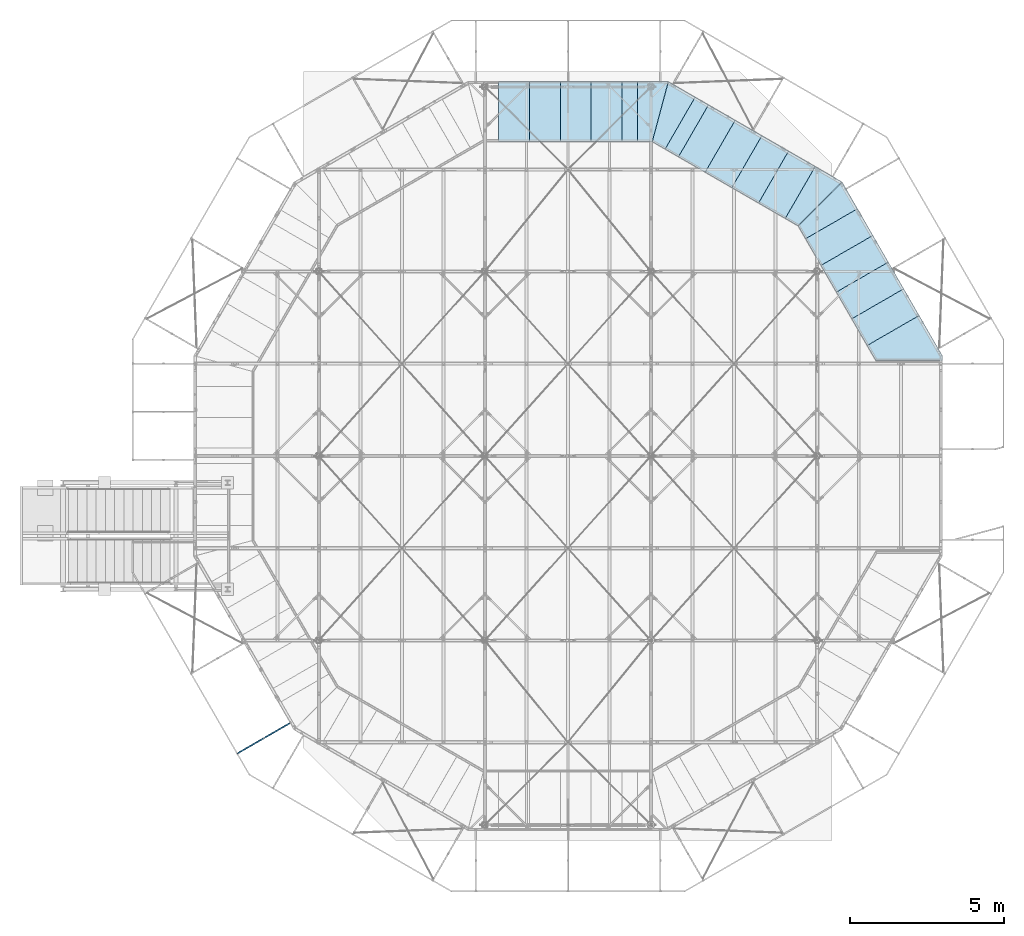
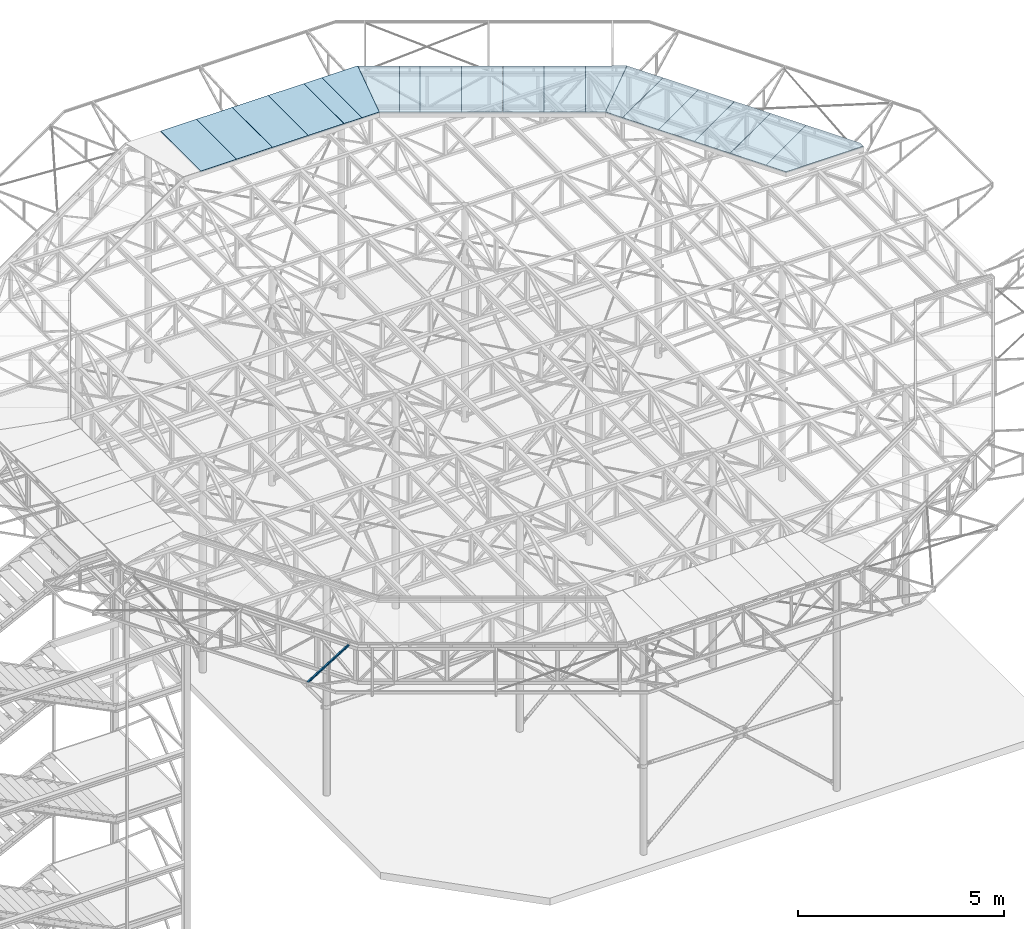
# One storey, part 33 of 132: 38 plates, 1 discrete accessory, 39 elements without a shape of their own.
"""IFC2X3 building model written with IfcOpenShell, lengths in millimetres."""

from ifc_helpers import new_model, si_unit, frame, origin_with_axes, origin_2d_with_axis, place, context, subcontext, project, spatial, polyline, hollow_rectangle, outline, extrude, clip, halfspace, material, type_object, element, aggregate, save


model = new_model("IFC2X3")

# Units and contexts
model_context = context("Model", 3, precision=1e-05, world=origin_with_axes())
body_context = subcontext(model_context, "Body", "Model", "MODEL_VIEW")
ifc_project = project(units=[si_unit("LENGTHUNIT", "METRE", prefix="MILLI"), si_unit("AREAUNIT", "SQUARE_METRE"), si_unit("VOLUMEUNIT", "CUBIC_METRE"), si_unit("MASSUNIT", "GRAM", prefix="KILO"), si_unit("TIMEUNIT", "SECOND"), si_unit("PLANEANGLEUNIT", "RADIAN"), si_unit("SOLIDANGLEUNIT", "STERADIAN"), si_unit("THERMODYNAMICTEMPERATUREUNIT", "DEGREE_CELSIUS"), si_unit("LUMINOUSINTENSITYUNIT", "LUMEN")], contexts=[model_context])

# Site, building, storey
site_placement = place(None, origin_with_axes())
site = spatial("IfcSite", under=ifc_project, at=site_placement, Name="Budowa", CompositionType="ELEMENT")
building_placement = place(site_placement, origin_with_axes())
building = spatial("IfcBuilding", under=site, at=building_placement, Name="Undefined", CompositionType="ELEMENT")
storey_placement = place(building_placement, origin_with_axes())
storey = spatial("IfcBuildingStorey", under=building, at=storey_placement, Name="Undefined", CompositionType="ELEMENT", Elevation=0.0)

# Assembly, plate
assembly_1_placement = place(storey_placement, origin_with_axes())
assembly_1 = element("IfcElementAssembly", 1, at=assembly_1_placement, inside=storey, Name="Steel Assembly", AssemblyPlace="NOTDEFINED", PredefinedType="RIGID_FRAME")
ifc_material = material(Name="STEEL/S235")
plate_type_1 = type_object("IfcPlateType", Name="BL2*1461", PredefinedType="NOTDEFINED")
plate_1_placement = place(assembly_1_placement, frame((21851.4200038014, 15589.4213128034, 14031.0), z_axis=(0.0, 0.0, -1.0), x_axis=(0.86602354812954, 0.500003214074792, 0.0)))
plate_1 = element("IfcPlate", 2, at=plate_1_placement, type_object=plate_type_1, material=ifc_material, Name="BLACHA RYFLOWANA", ObjectType="BL2*1461", context=body_context, shape_type="SweptSolid", body=[
    extrude(outline(polyline([(0.0, 0.0), (1950.9999999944, -2.23008100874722e-09), (1951.0001220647, 1505.99999999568), (1872.65209960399, 1641.70166015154), (-0.0387191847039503, 560.493896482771), (0.0, 0.0)])), frame((0.0, 0.0, -0.999999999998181), z_axis=(0.0, 0.0, 1.0), x_axis=(1.0, 0.0, 0.0)), (0.0, 0.0, 1.0), 2.0),
])
aggregate(assembly_1, [plate_1])

assembly_2_placement = place(storey_placement, origin_with_axes())
assembly_2 = element("IfcElementAssembly", 3, at=assembly_2_placement, inside=storey, Name="Steel Assembly", AssemblyPlace="NOTDEFINED", PredefinedType="RIGID_FRAME")
plate_type_2 = type_object("IfcPlateType", Name="BL2*1000", PredefinedType="NOTDEFINED")
plate_2_placement = place(assembly_2_placement, frame((23539.5117330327, 16567.5608585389, 14031.0), z_axis=(0.0, 0.0, 1.0), x_axis=(-0.500003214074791, 0.86602354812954, 0.0)))
plate_2 = element("IfcPlate", 4, at=plate_2_placement, type_object=plate_type_2, material=ifc_material, Name="BLACHA RYFLOWANA", ObjectType="BL2*1000", context=body_context, shape_type="SweptSolid", body=[
    extrude(outline(polyline([(0.0, 0.0), (999.999999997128, 3.78349795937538e-10), (999.99999999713, 1950.9999999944), (-9.92986315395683e-09, 1950.9999999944), (0.0, 0.0)])), frame((0.0, 0.0, -0.999999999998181), z_axis=(0.0, 0.0, 1.0), x_axis=(1.0, 0.0, 0.0)), (0.0, 0.0, 1.0), 2.0),
])
aggregate(assembly_2, [plate_2])

assembly_3_placement = place(storey_placement, origin_with_axes())
assembly_3 = element("IfcElementAssembly", 5, at=assembly_3_placement, inside=storey, Name="Steel Assembly", AssemblyPlace="NOTDEFINED", PredefinedType="RIGID_FRAME")
plate_3_placement = place(assembly_3_placement, frame((23038.5085125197, 17435.3164537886, 14031.0), z_axis=(0.0, 0.0, 1.0), x_axis=(-0.500003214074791, 0.86602354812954, 0.0)))
plate_3 = element("IfcPlate", 6, at=plate_3_placement, type_object=plate_type_2, material=ifc_material, Name="BLACHA RYFLOWANA", ObjectType="BL2*1000", context=body_context, shape_type="SweptSolid", body=[
    extrude(outline(polyline([(0.0, 0.0), (999.999999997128, 3.78349795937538e-10), (999.99999999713, 1950.9999999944), (-9.92986315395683e-09, 1950.9999999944), (0.0, 0.0)])), frame((0.0, 0.0, -0.999999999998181), z_axis=(0.0, 0.0, 1.0), x_axis=(1.0, 0.0, 0.0)), (0.0, 0.0, 1.0), 2.0),
])
aggregate(assembly_3, [plate_3])

assembly_4_placement = place(storey_placement, origin_with_axes())
assembly_4 = element("IfcElementAssembly", 7, at=assembly_4_placement, inside=storey, Name="Steel Assembly", AssemblyPlace="NOTDEFINED", PredefinedType="RIGID_FRAME")
plate_4_placement = place(assembly_4_placement, frame((22537.5052920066, 18303.0720490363, 14031.0), z_axis=(0.0, 0.0, 1.0), x_axis=(-0.500003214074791, 0.86602354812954, 0.0)))
plate_4 = element("IfcPlate", 8, at=plate_4_placement, type_object=plate_type_2, material=ifc_material, Name="BLACHA RYFLOWANA", ObjectType="BL2*1000", context=body_context, shape_type="SweptSolid", body=[
    extrude(outline(polyline([(0.0, 0.0), (999.999999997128, 3.78349795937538e-10), (999.99999999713, 1950.9999999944), (-9.92986315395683e-09, 1950.9999999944), (0.0, 0.0)])), frame((0.0, 0.0, -0.999999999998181), z_axis=(0.0, 0.0, 1.0), x_axis=(1.0, 0.0, 0.0)), (0.0, 0.0, 1.0), 2.0),
])
aggregate(assembly_4, [plate_4])

assembly_5_placement = place(storey_placement, origin_with_axes())
assembly_5 = element("IfcElementAssembly", 9, at=assembly_5_placement, inside=storey, Name="Steel Assembly", AssemblyPlace="NOTDEFINED", PredefinedType="RIGID_FRAME")
plate_5_placement = place(assembly_5_placement, frame((22036.5020714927, 19170.827644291, 14031.0), z_axis=(0.0, 0.0, 1.0), x_axis=(-0.500003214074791, 0.86602354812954, 0.0)))
plate_5 = element("IfcPlate", 10, at=plate_5_placement, type_object=plate_type_2, material=ifc_material, Name="BLACHA RYFLOWANA", ObjectType="BL2*1000", context=body_context, shape_type="SweptSolid", body=[
    extrude(outline(polyline([(0.0, 0.0), (999.999999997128, 3.78349795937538e-10), (999.99999999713, 1950.9999999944), (-9.92986315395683e-09, 1950.9999999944), (0.0, 0.0)])), frame((0.0, 0.0, -0.999999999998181), z_axis=(0.0, 0.0, 1.0), x_axis=(1.0, 0.0, 0.0)), (0.0, 0.0, 1.0), 2.0),
])
aggregate(assembly_5, [plate_5])

assembly_6_placement = place(storey_placement, origin_with_axes())
assembly_6 = element("IfcElementAssembly", 11, at=assembly_6_placement, inside=storey, Name="Steel Assembly", AssemblyPlace="NOTDEFINED", PredefinedType="RIGID_FRAME")
plate_6_placement = place(assembly_6_placement, frame((20161.1639621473, 21411.8602062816, 14031.0), z_axis=(0.0, 0.0, 1.0), x_axis=(-0.866045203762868, 0.499965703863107, 0.0)))
plate_6 = element("IfcPlate", 12, at=plate_6_placement, type_object=plate_type_2, material=ifc_material, Name="BLACHA RYFLOWANA", ObjectType="BL2*1000", context=body_context, shape_type="SweptSolid", body=[
    extrude(outline(polyline([(0.0, 0.0), (999.999999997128, 3.78349795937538e-10), (999.99999999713, 1950.9999999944), (-9.92986315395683e-09, 1950.9999999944), (0.0, 0.0)])), frame((0.0, 0.0, -0.999999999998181), z_axis=(0.0, 0.0, 1.0), x_axis=(1.0, 0.0, 0.0)), (0.0, 0.0, 1.0), 2.0),
])
aggregate(assembly_6, [plate_6])

assembly_7_placement = place(storey_placement, origin_with_axes())
assembly_7 = element("IfcElementAssembly", 13, at=assembly_7_placement, inside=storey, Name="Steel Assembly", AssemblyPlace="NOTDEFINED", PredefinedType="RIGID_FRAME")
plate_7_placement = place(assembly_7_placement, frame((19293.3866679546, 21912.8258415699, 14031.0), z_axis=(0.0, 0.0, 1.0), x_axis=(-0.866045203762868, 0.499965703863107, 0.0)))
plate_7 = element("IfcPlate", 14, at=plate_7_placement, type_object=plate_type_2, material=ifc_material, Name="BLACHA RYFLOWANA", ObjectType="BL2*1000", context=body_context, shape_type="SweptSolid", body=[
    extrude(outline(polyline([(0.0, 0.0), (999.999999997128, 3.78349795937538e-10), (999.99999999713, 1950.9999999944), (-9.92986315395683e-09, 1950.9999999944), (0.0, 0.0)])), frame((0.0, 0.0, -0.999999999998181), z_axis=(0.0, 0.0, 1.0), x_axis=(1.0, 0.0, 0.0)), (0.0, 0.0, 1.0), 2.0),
])
aggregate(assembly_7, [plate_7])

assembly_8_placement = place(storey_placement, origin_with_axes())
assembly_8 = element("IfcElementAssembly", 15, at=assembly_8_placement, inside=storey, Name="Steel Assembly", AssemblyPlace="NOTDEFINED", PredefinedType="RIGID_FRAME")
plate_8_placement = place(assembly_8_placement, frame((18425.6093737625, 22413.7914768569, 14031.0), z_axis=(0.0, 0.0, 1.0), x_axis=(-0.866045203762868, 0.499965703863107, 0.0)))
plate_8 = element("IfcPlate", 16, at=plate_8_placement, type_object=plate_type_2, material=ifc_material, Name="BLACHA RYFLOWANA", ObjectType="BL2*1000", context=body_context, shape_type="SweptSolid", body=[
    extrude(outline(polyline([(0.0, 0.0), (999.999999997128, 3.78349795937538e-10), (999.99999999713, 1950.9999999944), (-9.92986315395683e-09, 1950.9999999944), (0.0, 0.0)])), frame((0.0, 0.0, -0.999999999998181), z_axis=(0.0, 0.0, 1.0), x_axis=(1.0, 0.0, 0.0)), (0.0, 0.0, 1.0), 2.0),
])
aggregate(assembly_8, [plate_8])

assembly_9_placement = place(storey_placement, origin_with_axes())
assembly_9 = element("IfcElementAssembly", 17, at=assembly_9_placement, inside=storey, Name="Steel Assembly", AssemblyPlace="NOTDEFINED", PredefinedType="RIGID_FRAME")
plate_9_placement = place(assembly_9_placement, frame((17557.8320795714, 22914.7571121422, 14031.0), z_axis=(0.0, 0.0, 1.0), x_axis=(-0.866045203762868, 0.499965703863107, 0.0)))
plate_9 = element("IfcPlate", 18, at=plate_9_placement, type_object=plate_type_2, material=ifc_material, Name="BLACHA RYFLOWANA", ObjectType="BL2*1000", context=body_context, shape_type="SweptSolid", body=[
    extrude(outline(polyline([(0.0, 0.0), (999.999999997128, 3.78349795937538e-10), (999.99999999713, 1950.9999999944), (-9.92986315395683e-09, 1950.9999999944), (0.0, 0.0)])), frame((0.0, 0.0, -0.999999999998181), z_axis=(0.0, 0.0, 1.0), x_axis=(1.0, 0.0, 0.0)), (0.0, 0.0, 1.0), 2.0),
])
aggregate(assembly_9, [plate_9])

assembly_10_placement = place(storey_placement, origin_with_axes())
assembly_10 = element("IfcElementAssembly", 19, at=assembly_10_placement, inside=storey, Name="Steel Assembly", AssemblyPlace="NOTDEFINED", PredefinedType="RIGID_FRAME")
plate_10_placement = place(assembly_10_placement, frame((12877.0956570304, 24169.0005127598, 14031.0000000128), z_axis=(0.0, 0.0, -1.0), x_axis=(1.0, 0.0, 0.0)))
plate_10 = element("IfcPlate", 20, at=plate_10_placement, type_object=plate_type_2, material=ifc_material, Name="BLACHA RYFLOWANA", ObjectType="BL2*1000", context=body_context, shape_type="SweptSolid", body=[
    extrude(outline(polyline([(0.0, 0.0), (999.999999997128, 3.78349795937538e-10), (999.99999999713, 1950.9999999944), (-9.92986315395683e-09, 1950.9999999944), (0.0, 0.0)])), frame((0.0, 0.0, -0.999999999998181), z_axis=(0.0, 0.0, 1.0), x_axis=(1.0, 0.0, 0.0)), (0.0, 0.0, 1.0), 2.0),
])
aggregate(assembly_10, [plate_10])

assembly_11_placement = place(storey_placement, origin_with_axes())
assembly_11 = element("IfcElementAssembly", 21, at=assembly_11_placement, inside=storey, Name="Steel Assembly", AssemblyPlace="NOTDEFINED", PredefinedType="RIGID_FRAME")
plate_11_placement = place(assembly_11_placement, frame((11875.095657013, 24169.0005127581, 14031.0000000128), z_axis=(0.0, 0.0, -1.0), x_axis=(1.0, 0.0, 0.0)))
plate_11 = element("IfcPlate", 22, at=plate_11_placement, type_object=plate_type_2, material=ifc_material, Name="BLACHA RYFLOWANA", ObjectType="BL2*1000", context=body_context, shape_type="SweptSolid", body=[
    extrude(outline(polyline([(0.0, 0.0), (999.999999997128, 3.78349795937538e-10), (999.99999999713, 1950.9999999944), (-9.92986315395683e-09, 1950.9999999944), (0.0, 0.0)])), frame((0.0, 0.0, -0.999999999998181), z_axis=(0.0, 0.0, 1.0), x_axis=(1.0, 0.0, 0.0)), (0.0, 0.0, 1.0), 2.0),
])
aggregate(assembly_11, [plate_11])

assembly_12_placement = place(storey_placement, origin_with_axes())
assembly_12 = element("IfcElementAssembly", 23, at=assembly_12_placement, inside=storey, Name="Steel Assembly", AssemblyPlace="NOTDEFINED", PredefinedType="RIGID_FRAME")
plate_12_placement = place(assembly_12_placement, frame((10873.0956569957, 24169.0005127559, 14031.0000000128), z_axis=(0.0, 0.0, -1.0), x_axis=(1.0, 0.0, 0.0)))
plate_12 = element("IfcPlate", 24, at=plate_12_placement, type_object=plate_type_2, material=ifc_material, Name="BLACHA RYFLOWANA", ObjectType="BL2*1000", context=body_context, shape_type="SweptSolid", body=[
    extrude(outline(polyline([(0.0, 0.0), (999.999999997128, 3.78349795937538e-10), (999.99999999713, 1950.9999999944), (-9.92986315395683e-09, 1950.9999999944), (0.0, 0.0)])), frame((0.0, 0.0, -0.999999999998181), z_axis=(0.0, 0.0, 1.0), x_axis=(1.0, 0.0, 0.0)), (0.0, 0.0, 1.0), 2.0),
])
aggregate(assembly_12, [plate_12])

assembly_13_placement = place(storey_placement, origin_with_axes())
assembly_13 = element("IfcElementAssembly", 25, at=assembly_13_placement, inside=storey, Name="Steel Assembly", AssemblyPlace="NOTDEFINED", PredefinedType="RIGID_FRAME")
plate_13_placement = place(assembly_13_placement, frame((9871.09565697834, 24169.0005127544, 14031.0000000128), z_axis=(0.0, 0.0, -1.0), x_axis=(1.0, 0.0, 0.0)))
plate_13 = element("IfcPlate", 26, at=plate_13_placement, type_object=plate_type_2, material=ifc_material, Name="BLACHA RYFLOWANA", ObjectType="BL2*1000", context=body_context, shape_type="SweptSolid", body=[
    extrude(outline(polyline([(0.0, 0.0), (999.999999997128, 3.78349795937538e-10), (999.99999999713, 1950.9999999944), (-9.92986315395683e-09, 1950.9999999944), (0.0, 0.0)])), frame((0.0, 0.0, -0.999999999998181), z_axis=(0.0, 0.0, 1.0), x_axis=(1.0, 0.0, 0.0)), (0.0, 0.0, 1.0), 2.0),
])
aggregate(assembly_13, [plate_13])

assembly_14_placement = place(storey_placement, origin_with_axes())
assembly_14 = element("IfcElementAssembly", 27, at=assembly_14_placement, inside=storey, Name="Steel Assembly", AssemblyPlace="NOTDEFINED", PredefinedType="RIGID_FRAME")
plate_type_3 = type_object("IfcPlateType", Name="BL2*1002", PredefinedType="NOTDEFINED")
plate_14_placement = place(assembly_14_placement, frame((19846.7387029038, 19062.5593450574, 14031.0), z_axis=(0.0, 0.0, -1.0), x_axis=(-0.500336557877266, 0.865831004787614, 0.0)))
plate_14 = element("IfcPlate", 28, at=plate_14_placement, type_object=plate_type_3, material=ifc_material, Name="BLACHA RYFLOWANA", ObjectType="BL2*1002", context=body_context, shape_type="SweptSolid", body=[
    extrude(outline(polyline([(0.0, 0.0), (481.607696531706, 5.82076609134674e-10), (1002.48809814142, 1950.90051268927), (-3.37786332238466e-08, 1950.90051268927), (0.0, 0.0)])), frame((0.0, 0.0, -0.999999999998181), z_axis=(0.0, 0.0, 1.0), x_axis=(1.0, 0.0, 0.0)), (0.0, 0.0, 1.0), 2.0),
])
aggregate(assembly_14, [plate_14])

assembly_15_placement = place(storey_placement, origin_with_axes())
assembly_15 = element("IfcElementAssembly", 29, at=assembly_15_placement, inside=storey, Name="Steel Assembly", AssemblyPlace="NOTDEFINED", PredefinedType="RIGID_FRAME")
plate_15_placement = place(assembly_15_placement, frame((15280.5817170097, 21976.7536120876, 14031.0), z_axis=(0.0, 0.0, -1.0), x_axis=(-0.866045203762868, 0.499965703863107, 0.0)))
plate_15 = element("IfcPlate", 30, at=plate_15_placement, type_object=plate_type_3, material=ifc_material, Name="BLACHA RYFLOWANA", ObjectType="BL2*1002", context=body_context, shape_type="SweptSolid", body=[
    extrude(outline(polyline([(0.0, 0.0), (481.607696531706, 5.82076609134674e-10), (1002.48809814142, 1950.90051268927), (-3.37786332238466e-08, 1950.90051268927), (0.0, 0.0)])), frame((0.0, 0.0, -0.999999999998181), z_axis=(0.0, 0.0, 1.0), x_axis=(1.0, 0.0, 0.0)), (0.0, 0.0, 1.0), 2.0),
])
aggregate(assembly_15, [plate_15])

assembly_16_placement = place(storey_placement, origin_with_axes())
assembly_16 = element("IfcElementAssembly", 31, at=assembly_16_placement, inside=storey, Name="Steel Assembly", AssemblyPlace="NOTDEFINED", PredefinedType="RIGID_FRAME")
plate_16_placement = place(assembly_16_placement, frame((19188.0119897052, 19721.0040067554, 14031.0), z_axis=(0.0, 0.0, 1.0), x_axis=(0.86604520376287, -0.499965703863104, 0.0)))
plate_16 = element("IfcPlate", 32, at=plate_16_placement, type_object=plate_type_3, material=ifc_material, Name="BLACHA RYFLOWANA", ObjectType="BL2*1002", context=body_context, shape_type="SweptSolid", body=[
    extrude(outline(polyline([(0.0, 0.0), (481.607696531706, 5.82076609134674e-10), (1002.48809814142, 1950.90051268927), (-3.37786332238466e-08, 1950.90051268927), (0.0, 0.0)])), frame((0.0, 0.0, -0.999999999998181), z_axis=(0.0, 0.0, 1.0), x_axis=(1.0, 0.0, 0.0)), (0.0, 0.0, 1.0), 2.0),
])
aggregate(assembly_16, [plate_16])

assembly_17_placement = place(storey_placement, origin_with_axes())
assembly_17 = element("IfcElementAssembly", 33, at=assembly_17_placement, inside=storey, Name="Steel Assembly", AssemblyPlace="NOTDEFINED", PredefinedType="RIGID_FRAME")
plate_17_placement = place(assembly_17_placement, frame((14380.9043428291, 22218.0005127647, 14031.0000000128), z_axis=(0.0, 0.0, 1.0), x_axis=(1.0, 0.0, 0.0)))
plate_17 = element("IfcPlate", 34, at=plate_17_placement, type_object=plate_type_3, material=ifc_material, Name="BLACHA RYFLOWANA", ObjectType="BL2*1002", context=body_context, shape_type="SweptSolid", body=[
    extrude(outline(polyline([(0.0, 0.0), (481.607696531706, 5.82076609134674e-10), (1002.48809814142, 1950.90051268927), (-3.37786332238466e-08, 1950.90051268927), (0.0, 0.0)])), frame((0.0, 0.0, -0.999999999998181), z_axis=(0.0, 0.0, 1.0), x_axis=(1.0, 0.0, 0.0)), (0.0, 0.0, 1.0), 2.0),
])
aggregate(assembly_17, [plate_17])

assembly_18_placement = place(storey_placement, origin_with_axes())
assembly_18 = element("IfcElementAssembly", 35, at=assembly_18_placement, inside=storey, Name="Steel Assembly", AssemblyPlace="NOTDEFINED", PredefinedType="RIGID_FRAME")
plate_type_4 = type_object("IfcPlateType", Name="BL2*500", PredefinedType="NOTDEFINED")
plate_18_placement = place(assembly_18_placement, frame((16690.0547853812, 23415.7227474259, 14031.0), z_axis=(0.0, 0.0, 1.0), x_axis=(-0.866045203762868, 0.499965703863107, 0.0)))
plate_18 = element("IfcPlate", 36, at=plate_18_placement, type_object=plate_type_4, material=ifc_material, Name="BLACHA RYFLOWANA", ObjectType="BL2*500", context=body_context, shape_type="SweptSolid", body=[
    extrude(outline(polyline([(0.0, 0.0), (499.999999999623, 8.51287040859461e-10), (499.999999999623, 1950.99999999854), (-9.92986315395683e-09, 1950.9999999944), (0.0, 0.0)])), frame((0.0, 0.0, -0.999999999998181), z_axis=(0.0, 0.0, 1.0), x_axis=(1.0, 0.0, 0.0)), (0.0, 0.0, 1.0), 2.0),
])
aggregate(assembly_18, [plate_18])

assembly_19_placement = place(storey_placement, origin_with_axes())
assembly_19 = element("IfcElementAssembly", 37, at=assembly_19_placement, inside=storey, Name="Steel Assembly", AssemblyPlace="NOTDEFINED", PredefinedType="RIGID_FRAME")
plate_19_placement = place(assembly_19_placement, frame((13879.0956570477, 24169.000512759, 14031.0000000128), z_axis=(0.0, 0.0, -1.0), x_axis=(1.0, 0.0, 0.0)))
plate_19 = element("IfcPlate", 38, at=plate_19_placement, type_object=plate_type_4, material=ifc_material, Name="BLACHA RYFLOWANA", ObjectType="BL2*500", context=body_context, shape_type="SweptSolid", body=[
    extrude(outline(polyline([(0.0, 0.0), (499.999999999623, 8.51287040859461e-10), (499.999999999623, 1950.99999999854), (-9.92986315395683e-09, 1950.9999999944), (0.0, 0.0)])), frame((0.0, 0.0, -0.999999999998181), z_axis=(0.0, 0.0, 1.0), x_axis=(1.0, 0.0, 0.0)), (0.0, 0.0, 1.0), 2.0),
])
aggregate(assembly_19, [plate_19])

assembly_20_placement = place(storey_placement, origin_with_axes())
assembly_20 = element("IfcElementAssembly", 39, at=assembly_20_placement, inside=storey, Name="Steel Assembly", AssemblyPlace="NOTDEFINED", PredefinedType="RIGID_FRAME")
plate_type_5 = type_object("IfcPlateType", Name="BL40*1461", PredefinedType="NOTDEFINED")
plate_20_placement = place(assembly_20_placement, frame((21851.4200037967, 15589.4213128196, 14010.0), z_axis=(0.0, 0.0, -1.0), x_axis=(0.86602354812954, 0.500003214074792, 0.0)))
plate_20 = element("IfcPlate", 40, at=plate_20_placement, type_object=plate_type_5, material=ifc_material, Name="KRATA", ObjectType="BL40*1461", context=body_context, shape_type="SweptSolid", body=[
    extrude(outline(polyline([(0.0, 0.0), (1950.9999999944, -2.23008100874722e-09), (1951.0001220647, 1505.99999999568), (1872.65209960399, 1641.70166015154), (-0.0387191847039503, 560.493896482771), (0.0, 0.0)])), frame((0.0, 0.0, -20.0), z_axis=(0.0, 0.0, 1.0), x_axis=(1.0, 0.0, 0.0)), (0.0, 0.0, 1.0), 40.0),
])
aggregate(assembly_20, [plate_20])

assembly_21_placement = place(storey_placement, origin_with_axes())
assembly_21 = element("IfcElementAssembly", 41, at=assembly_21_placement, inside=storey, Name="Steel Assembly", AssemblyPlace="NOTDEFINED", PredefinedType="RIGID_FRAME")
plate_type_6 = type_object("IfcPlateType", Name="BL40*1000", PredefinedType="NOTDEFINED")
plate_21_placement = place(assembly_21_placement, frame((23539.5117330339, 16567.5608585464, 14010.0), z_axis=(0.0, 0.0, 1.0), x_axis=(-0.500003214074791, 0.86602354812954, 0.0)))
plate_21 = element("IfcPlate", 42, at=plate_21_placement, type_object=plate_type_6, material=ifc_material, Name="KRATA", ObjectType="BL40*1000", context=body_context, shape_type="SweptSolid", body=[
    extrude(outline(polyline([(0.0, 0.0), (999.999999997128, 3.78349795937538e-10), (999.99999999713, 1950.9999999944), (-9.92986315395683e-09, 1950.9999999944), (0.0, 0.0)])), frame((0.0, 0.0, -20.0), z_axis=(0.0, 0.0, 1.0), x_axis=(1.0, 0.0, 0.0)), (0.0, 0.0, 1.0), 40.0),
])
aggregate(assembly_21, [plate_21])

assembly_22_placement = place(storey_placement, origin_with_axes())
assembly_22 = element("IfcElementAssembly", 43, at=assembly_22_placement, inside=storey, Name="Steel Assembly", AssemblyPlace="NOTDEFINED", PredefinedType="RIGID_FRAME")
plate_22_placement = place(assembly_22_placement, frame((23038.508512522, 17435.3164537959, 14010.0), z_axis=(0.0, 0.0, 1.0), x_axis=(-0.500003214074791, 0.86602354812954, 0.0)))
plate_22 = element("IfcPlate", 44, at=plate_22_placement, type_object=plate_type_6, material=ifc_material, Name="KRATA", ObjectType="BL40*1000", context=body_context, shape_type="SweptSolid", body=[
    extrude(outline(polyline([(0.0, 0.0), (999.999999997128, 3.78349795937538e-10), (999.99999999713, 1950.9999999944), (-9.92986315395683e-09, 1950.9999999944), (0.0, 0.0)])), frame((0.0, 0.0, -20.0), z_axis=(0.0, 0.0, 1.0), x_axis=(1.0, 0.0, 0.0)), (0.0, 0.0, 1.0), 40.0),
])
aggregate(assembly_22, [plate_22])

assembly_23_placement = place(storey_placement, origin_with_axes())
assembly_23 = element("IfcElementAssembly", 45, at=assembly_23_placement, inside=storey, Name="Steel Assembly", AssemblyPlace="NOTDEFINED", PredefinedType="RIGID_FRAME")
plate_23_placement = place(assembly_23_placement, frame((22537.5052920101, 18303.0720490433, 14010.0), z_axis=(0.0, 0.0, 1.0), x_axis=(-0.500003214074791, 0.86602354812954, 0.0)))
plate_23 = element("IfcPlate", 46, at=plate_23_placement, type_object=plate_type_6, material=ifc_material, Name="KRATA", ObjectType="BL40*1000", context=body_context, shape_type="SweptSolid", body=[
    extrude(outline(polyline([(0.0, 0.0), (999.999999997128, 3.78349795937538e-10), (999.99999999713, 1950.9999999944), (-9.92986315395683e-09, 1950.9999999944), (0.0, 0.0)])), frame((0.0, 0.0, -20.0), z_axis=(0.0, 0.0, 1.0), x_axis=(1.0, 0.0, 0.0)), (0.0, 0.0, 1.0), 40.0),
])
aggregate(assembly_23, [plate_23])

assembly_24_placement = place(storey_placement, origin_with_axes())
assembly_24 = element("IfcElementAssembly", 47, at=assembly_24_placement, inside=storey, Name="Steel Assembly", AssemblyPlace="NOTDEFINED", PredefinedType="RIGID_FRAME")
plate_24_placement = place(assembly_24_placement, frame((22036.5020714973, 19170.8276442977, 14010.0), z_axis=(0.0, 0.0, 1.0), x_axis=(-0.500003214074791, 0.86602354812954, 0.0)))
plate_24 = element("IfcPlate", 48, at=plate_24_placement, type_object=plate_type_6, material=ifc_material, Name="KRATA", ObjectType="BL40*1000", context=body_context, shape_type="SweptSolid", body=[
    extrude(outline(polyline([(0.0, 0.0), (999.999999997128, 3.78349795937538e-10), (999.99999999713, 1950.9999999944), (-9.92986315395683e-09, 1950.9999999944), (0.0, 0.0)])), frame((0.0, 0.0, -20.0), z_axis=(0.0, 0.0, 1.0), x_axis=(1.0, 0.0, 0.0)), (0.0, 0.0, 1.0), 40.0),
])
aggregate(assembly_24, [plate_24])

assembly_25_placement = place(storey_placement, origin_with_axes())
assembly_25 = element("IfcElementAssembly", 49, at=assembly_25_placement, inside=storey, Name="Steel Assembly", AssemblyPlace="NOTDEFINED", PredefinedType="RIGID_FRAME")
plate_25_placement = place(assembly_25_placement, frame((20161.1639621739, 21411.860206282, 14010.0), z_axis=(0.0, 0.0, 1.0), x_axis=(-0.866045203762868, 0.499965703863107, 0.0)))
plate_25 = element("IfcPlate", 50, at=plate_25_placement, type_object=plate_type_6, material=ifc_material, Name="KRATA", ObjectType="BL40*1000", context=body_context, shape_type="SweptSolid", body=[
    extrude(outline(polyline([(0.0, 0.0), (999.999999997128, 3.78349795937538e-10), (999.99999999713, 1950.9999999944), (-9.92986315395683e-09, 1950.9999999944), (0.0, 0.0)])), frame((0.0, 0.0, -20.0), z_axis=(0.0, 0.0, 1.0), x_axis=(1.0, 0.0, 0.0)), (0.0, 0.0, 1.0), 40.0),
])
aggregate(assembly_25, [plate_25])

assembly_26_placement = place(storey_placement, origin_with_axes())
assembly_26 = element("IfcElementAssembly", 51, at=assembly_26_placement, inside=storey, Name="Steel Assembly", AssemblyPlace="NOTDEFINED", PredefinedType="RIGID_FRAME")
plate_26_placement = place(assembly_26_placement, frame((19293.3866679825, 21912.8258415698, 14010.0), z_axis=(0.0, 0.0, 1.0), x_axis=(-0.866045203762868, 0.499965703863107, 0.0)))
plate_26 = element("IfcPlate", 52, at=plate_26_placement, type_object=plate_type_6, material=ifc_material, Name="KRATA", ObjectType="BL40*1000", context=body_context, shape_type="SweptSolid", body=[
    extrude(outline(polyline([(0.0, 0.0), (999.999999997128, 3.78349795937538e-10), (999.99999999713, 1950.9999999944), (-9.92986315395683e-09, 1950.9999999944), (0.0, 0.0)])), frame((0.0, 0.0, -20.0), z_axis=(0.0, 0.0, 1.0), x_axis=(1.0, 0.0, 0.0)), (0.0, 0.0, 1.0), 40.0),
])
aggregate(assembly_26, [plate_26])

assembly_27_placement = place(storey_placement, origin_with_axes())
assembly_27 = element("IfcElementAssembly", 53, at=assembly_27_placement, inside=storey, Name="Steel Assembly", AssemblyPlace="NOTDEFINED", PredefinedType="RIGID_FRAME")
plate_27_placement = place(assembly_27_placement, frame((18425.6093737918, 22413.7914768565, 14010.0), z_axis=(0.0, 0.0, 1.0), x_axis=(-0.866045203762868, 0.499965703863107, 0.0)))
plate_27 = element("IfcPlate", 54, at=plate_27_placement, type_object=plate_type_6, material=ifc_material, Name="KRATA", ObjectType="BL40*1000", context=body_context, shape_type="SweptSolid", body=[
    extrude(outline(polyline([(0.0, 0.0), (999.999999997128, 3.78349795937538e-10), (999.99999999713, 1950.9999999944), (-9.92986315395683e-09, 1950.9999999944), (0.0, 0.0)])), frame((0.0, 0.0, -20.0), z_axis=(0.0, 0.0, 1.0), x_axis=(1.0, 0.0, 0.0)), (0.0, 0.0, 1.0), 40.0),
])
aggregate(assembly_27, [plate_27])

assembly_28_placement = place(storey_placement, origin_with_axes())
assembly_28 = element("IfcElementAssembly", 55, at=assembly_28_placement, inside=storey, Name="Steel Assembly", AssemblyPlace="NOTDEFINED", PredefinedType="RIGID_FRAME")
plate_28_placement = place(assembly_28_placement, frame((17557.8320796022, 22914.7571121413, 14010.0), z_axis=(0.0, 0.0, 1.0), x_axis=(-0.866045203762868, 0.499965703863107, 0.0)))
plate_28 = element("IfcPlate", 56, at=plate_28_placement, type_object=plate_type_6, material=ifc_material, Name="KRATA", ObjectType="BL40*1000", context=body_context, shape_type="SweptSolid", body=[
    extrude(outline(polyline([(0.0, 0.0), (999.999999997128, 3.78349795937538e-10), (999.99999999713, 1950.9999999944), (-9.92986315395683e-09, 1950.9999999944), (0.0, 0.0)])), frame((0.0, 0.0, -20.0), z_axis=(0.0, 0.0, 1.0), x_axis=(1.0, 0.0, 0.0)), (0.0, 0.0, 1.0), 40.0),
])
aggregate(assembly_28, [plate_28])

assembly_29_placement = place(storey_placement, origin_with_axes())
assembly_29 = element("IfcElementAssembly", 57, at=assembly_29_placement, inside=storey, Name="Steel Assembly", AssemblyPlace="NOTDEFINED", PredefinedType="RIGID_FRAME")
plate_29_placement = place(assembly_29_placement, frame((12877.095657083, 24169.0005127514, 14010.0), z_axis=(0.0, 0.0, -1.0), x_axis=(1.0, 0.0, 0.0)))
plate_29 = element("IfcPlate", 58, at=plate_29_placement, type_object=plate_type_6, material=ifc_material, Name="KRATA", ObjectType="BL40*1000", context=body_context, shape_type="SweptSolid", body=[
    extrude(outline(polyline([(0.0, 0.0), (999.999999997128, 3.78349795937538e-10), (999.99999999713, 1950.9999999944), (-9.92986315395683e-09, 1950.9999999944), (0.0, 0.0)])), frame((0.0, 0.0, -20.0), z_axis=(0.0, 0.0, 1.0), x_axis=(1.0, 0.0, 0.0)), (0.0, 0.0, 1.0), 40.0),
])
aggregate(assembly_29, [plate_29])

assembly_30_placement = place(storey_placement, origin_with_axes())
assembly_30 = element("IfcElementAssembly", 59, at=assembly_30_placement, inside=storey, Name="Steel Assembly", AssemblyPlace="NOTDEFINED", PredefinedType="RIGID_FRAME")
plate_30_placement = place(assembly_30_placement, frame((11875.095657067, 24169.0005127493, 14010.0), z_axis=(0.0, 0.0, -1.0), x_axis=(1.0, 0.0, 0.0)))
plate_30 = element("IfcPlate", 60, at=plate_30_placement, type_object=plate_type_6, material=ifc_material, Name="KRATA", ObjectType="BL40*1000", context=body_context, shape_type="SweptSolid", body=[
    extrude(outline(polyline([(0.0, 0.0), (999.999999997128, 3.78349795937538e-10), (999.99999999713, 1950.9999999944), (-9.92986315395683e-09, 1950.9999999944), (0.0, 0.0)])), frame((0.0, 0.0, -20.0), z_axis=(0.0, 0.0, 1.0), x_axis=(1.0, 0.0, 0.0)), (0.0, 0.0, 1.0), 40.0),
])
aggregate(assembly_30, [plate_30])

assembly_31_placement = place(storey_placement, origin_with_axes())
assembly_31 = element("IfcElementAssembly", 61, at=assembly_31_placement, inside=storey, Name="Steel Assembly", AssemblyPlace="NOTDEFINED", PredefinedType="RIGID_FRAME")
plate_31_placement = place(assembly_31_placement, frame((10873.0956570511, 24169.0005127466, 14010.0), z_axis=(0.0, 0.0, -1.0), x_axis=(1.0, 0.0, 0.0)))
plate_31 = element("IfcPlate", 62, at=plate_31_placement, type_object=plate_type_6, material=ifc_material, Name="KRATA", ObjectType="BL40*1000", context=body_context, shape_type="SweptSolid", body=[
    extrude(outline(polyline([(0.0, 0.0), (999.999999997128, 3.78349795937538e-10), (999.99999999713, 1950.9999999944), (-9.92986315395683e-09, 1950.9999999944), (0.0, 0.0)])), frame((0.0, 0.0, -20.0), z_axis=(0.0, 0.0, 1.0), x_axis=(1.0, 0.0, 0.0)), (0.0, 0.0, 1.0), 40.0),
])
aggregate(assembly_31, [plate_31])

assembly_32_placement = place(storey_placement, origin_with_axes())
assembly_32 = element("IfcElementAssembly", 63, at=assembly_32_placement, inside=storey, Name="Steel Assembly", AssemblyPlace="NOTDEFINED", PredefinedType="RIGID_FRAME")
plate_32_placement = place(assembly_32_placement, frame((9871.09565703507, 24169.0005127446, 14010.0), z_axis=(0.0, 0.0, -1.0), x_axis=(1.0, 0.0, 0.0)))
plate_32 = element("IfcPlate", 64, at=plate_32_placement, type_object=plate_type_6, material=ifc_material, Name="KRATA", ObjectType="BL40*1000", context=body_context, shape_type="SweptSolid", body=[
    extrude(outline(polyline([(0.0, 0.0), (999.999999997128, 3.78349795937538e-10), (999.99999999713, 1950.9999999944), (-9.92986315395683e-09, 1950.9999999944), (0.0, 0.0)])), frame((0.0, 0.0, -20.0), z_axis=(0.0, 0.0, 1.0), x_axis=(1.0, 0.0, 0.0)), (0.0, 0.0, 1.0), 40.0),
])
aggregate(assembly_32, [plate_32])

assembly_33_placement = place(storey_placement, origin_with_axes())
assembly_33 = element("IfcElementAssembly", 65, at=assembly_33_placement, inside=storey, Name="Steel Assembly", AssemblyPlace="NOTDEFINED", PredefinedType="RIGID_FRAME")
plate_type_7 = type_object("IfcPlateType", Name="BL40*1002", PredefinedType="NOTDEFINED")
plate_33_placement = place(assembly_33_placement, frame((19846.7387029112, 19062.5593450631, 14010.0), z_axis=(0.0, 0.0, -1.0), x_axis=(-0.500336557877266, 0.865831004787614, 0.0)))
plate_33 = element("IfcPlate", 66, at=plate_33_placement, type_object=plate_type_7, material=ifc_material, Name="KRATA", ObjectType="BL40*1002", context=body_context, shape_type="SweptSolid", body=[
    extrude(outline(polyline([(0.0, 0.0), (481.607696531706, 5.82076609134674e-10), (1002.48809814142, 1950.90051268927), (-3.37786332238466e-08, 1950.90051268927), (0.0, 0.0)])), frame((0.0, 0.0, -20.0), z_axis=(0.0, 0.0, 1.0), x_axis=(1.0, 0.0, 0.0)), (0.0, 0.0, 1.0), 40.0),
])
aggregate(assembly_33, [plate_33])

assembly_34_placement = place(storey_placement, origin_with_axes())
assembly_34 = element("IfcElementAssembly", 67, at=assembly_34_placement, inside=storey, Name="Steel Assembly", AssemblyPlace="NOTDEFINED", PredefinedType="RIGID_FRAME")
plate_34_placement = place(assembly_34_placement, frame((15280.5817170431, 21976.7536120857, 14010.0), z_axis=(0.0, 0.0, -1.0), x_axis=(-0.866045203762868, 0.499965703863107, 0.0)))
plate_34 = element("IfcPlate", 68, at=plate_34_placement, type_object=plate_type_7, material=ifc_material, Name="KRATA", ObjectType="BL40*1002", context=body_context, shape_type="SweptSolid", body=[
    extrude(outline(polyline([(0.0, 0.0), (481.607696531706, 5.82076609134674e-10), (1002.48809814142, 1950.90051268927), (-3.37786332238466e-08, 1950.90051268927), (0.0, 0.0)])), frame((0.0, 0.0, -20.0), z_axis=(0.0, 0.0, 1.0), x_axis=(1.0, 0.0, 0.0)), (0.0, 0.0, 1.0), 40.0),
])
aggregate(assembly_34, [plate_34])

assembly_35_placement = place(storey_placement, origin_with_axes())
assembly_35 = element("IfcElementAssembly", 69, at=assembly_35_placement, inside=storey, Name="Steel Assembly", AssemblyPlace="NOTDEFINED", PredefinedType="RIGID_FRAME")
plate_35_placement = place(assembly_35_placement, frame((19188.0119897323, 19721.0040067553, 14010.0), z_axis=(0.0, 0.0, 1.0), x_axis=(0.86604520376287, -0.499965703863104, 0.0)))
plate_35 = element("IfcPlate", 70, at=plate_35_placement, type_object=plate_type_7, material=ifc_material, Name="KRATA", ObjectType="BL40*1002", context=body_context, shape_type="SweptSolid", body=[
    extrude(outline(polyline([(0.0, 0.0), (481.607696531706, 5.82076609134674e-10), (1002.48809814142, 1950.90051268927), (-3.37786332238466e-08, 1950.90051268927), (0.0, 0.0)])), frame((0.0, 0.0, -20.0), z_axis=(0.0, 0.0, 1.0), x_axis=(1.0, 0.0, 0.0)), (0.0, 0.0, 1.0), 40.0),
])
aggregate(assembly_35, [plate_35])

assembly_36_placement = place(storey_placement, origin_with_axes())
assembly_36 = element("IfcElementAssembly", 71, at=assembly_36_placement, inside=storey, Name="Steel Assembly", AssemblyPlace="NOTDEFINED", PredefinedType="RIGID_FRAME")
plate_36_placement = place(assembly_36_placement, frame((14380.9043428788, 22218.0005127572, 14010.0), z_axis=(0.0, 0.0, 1.0), x_axis=(1.0, 0.0, 0.0)))
plate_36 = element("IfcPlate", 72, at=plate_36_placement, type_object=plate_type_7, material=ifc_material, Name="KRATA", ObjectType="BL40*1002", context=body_context, shape_type="SweptSolid", body=[
    extrude(outline(polyline([(0.0, 0.0), (481.607696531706, 5.82076609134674e-10), (1002.48809814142, 1950.90051268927), (-3.37786332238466e-08, 1950.90051268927), (0.0, 0.0)])), frame((0.0, 0.0, -20.0), z_axis=(0.0, 0.0, 1.0), x_axis=(1.0, 0.0, 0.0)), (0.0, 0.0, 1.0), 40.0),
])
aggregate(assembly_36, [plate_36])

assembly_37_placement = place(storey_placement, origin_with_axes())
assembly_37 = element("IfcElementAssembly", 73, at=assembly_37_placement, inside=storey, Name="Steel Assembly", AssemblyPlace="NOTDEFINED", PredefinedType="RIGID_FRAME")
plate_type_8 = type_object("IfcPlateType", Name="BL40*500", PredefinedType="NOTDEFINED")
plate_37_placement = place(assembly_37_placement, frame((16690.0547854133, 23415.7227474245, 14010.0), z_axis=(0.0, 0.0, 1.0), x_axis=(-0.866045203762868, 0.499965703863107, 0.0)))
plate_37 = element("IfcPlate", 74, at=plate_37_placement, type_object=plate_type_8, material=ifc_material, Name="KRATA", ObjectType="BL40*500", context=body_context, shape_type="SweptSolid", body=[
    extrude(outline(polyline([(0.0, 0.0), (499.999999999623, 8.51287040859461e-10), (499.999999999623, 1950.99999999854), (-9.92986315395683e-09, 1950.9999999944), (0.0, 0.0)])), frame((0.0, 0.0, -20.0), z_axis=(0.0, 0.0, 1.0), x_axis=(1.0, 0.0, 0.0)), (0.0, 0.0, 1.0), 40.0),
])
aggregate(assembly_37, [plate_37])

assembly_38_placement = place(storey_placement, origin_with_axes())
assembly_38 = element("IfcElementAssembly", 75, at=assembly_38_placement, inside=storey, Name="Steel Assembly", AssemblyPlace="NOTDEFINED", PredefinedType="RIGID_FRAME")
plate_38_placement = place(assembly_38_placement, frame((13879.095657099, 24169.0005127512, 14010.0), z_axis=(0.0, 0.0, -1.0), x_axis=(1.0, 0.0, 0.0)))
plate_38 = element("IfcPlate", 76, at=plate_38_placement, type_object=plate_type_8, material=ifc_material, Name="KRATA", ObjectType="BL40*500", context=body_context, shape_type="SweptSolid", body=[
    extrude(outline(polyline([(0.0, 0.0), (499.999999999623, 8.51287040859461e-10), (499.999999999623, 1950.99999999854), (-9.92986315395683e-09, 1950.9999999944), (0.0, 0.0)])), frame((0.0, 0.0, -20.0), z_axis=(0.0, 0.0, 1.0), x_axis=(1.0, 0.0, 0.0)), (0.0, 0.0, 1.0), 40.0),
])
aggregate(assembly_38, [plate_38])

# Assembly, discrete accessory
assembly_39_placement = place(storey_placement, origin_with_axes())
assembly_39 = element("IfcElementAssembly", 77, at=assembly_39_placement, inside=storey, Name="Steel Assembly", AssemblyPlace="NOTDEFINED", PredefinedType="RIGID_FRAME")
discrete_accessory_type = type_object("IfcDiscreteAccessoryType", Name="BEAM")
discrete_accessory_placement = place(assembly_39_placement, frame((3080.80169624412, 3312.5153364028, 13855.0311915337), z_axis=(0.499969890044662, -0.866042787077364, 0.0), x_axis=(-0.864962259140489, -0.499346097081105, 0.0499376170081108)))
discrete_accessory = element("IfcDiscreteAccessory", 78, at=discrete_accessory_placement, type_object=discrete_accessory_type, material=ifc_material, Name="BEAM", ObjectType="SHS50*4", context=body_context, shape_type="Clipping", body=[
    clip(clip(extrude(hollow_rectangle(XDim=50.0, YDim=50.0, WallThickness=4.0, InnerFilletRadius=4.0, OuterFilletRadius=8.0, at=origin_2d_with_axis()), frame((2047.80222226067, -1.81898940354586e-12, -1.00153404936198e-12), z_axis=(-1.0, 0.0, 0.0), x_axis=(0.0, -1.0, 0.0)), (0.0, 0.0, 1.0), 2120.54), halfspace(frame((2002.5989463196, -25.0000000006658, -7.85761585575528e-07), z_axis=(-0.689225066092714, -0.724547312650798, 2.88487317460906e-10), x_axis=(0.0, 0.0, -1.0)), True)), halfspace(frame((-1.23691279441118e-08, -25.0000000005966, 73.1665326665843), z_axis=(-0.998752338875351, -0.0499376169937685, 0.0), x_axis=(0.0, 0.0, -1.0)), False)),
])
aggregate(assembly_39, [discrete_accessory])

save(model, "model.ifc")
